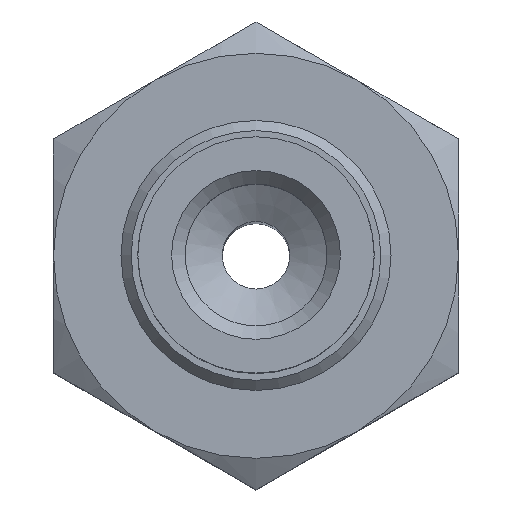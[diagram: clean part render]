
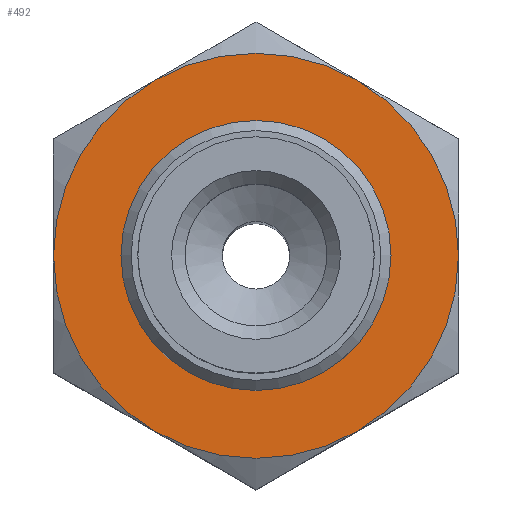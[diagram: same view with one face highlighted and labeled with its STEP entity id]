
A CAD part, top view. The second image highlights one B-rep face of the part: STEP entity #492.
In plain terms, the highlighted planar face has unit normal (0, 0, 1).
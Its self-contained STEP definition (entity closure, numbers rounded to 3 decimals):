
#492=ADVANCED_FACE('',(#688,#689),#690,.T.);
#688=FACE_BOUND('',#985,.T.);
#689=FACE_OUTER_BOUND('',#986,.T.);
#690=PLANE('',#987);
#985=EDGE_LOOP('',(#1443));
#986=EDGE_LOOP('',(#1444,#1445,#1446,#1447,#1448,#1449));
#987=AXIS2_PLACEMENT_3D('',#1450,#1451,#1452);
#1443=ORIENTED_EDGE('',*,*,#1931,.T.);
#1444=ORIENTED_EDGE('',*,*,#1932,.T.);
#1445=ORIENTED_EDGE('',*,*,#1933,.T.);
#1446=ORIENTED_EDGE('',*,*,#1897,.T.);
#1447=ORIENTED_EDGE('',*,*,#1919,.T.);
#1448=ORIENTED_EDGE('',*,*,#1934,.T.);
#1449=ORIENTED_EDGE('',*,*,#1929,.T.);
#1450=CARTESIAN_POINT('',(-6.928,-6.0,3.0));
#1451=DIRECTION('',(0.0,0.0,1.0));
#1452=DIRECTION('',(1.0,0.0,0.0));
#1897=EDGE_CURVE('',#2118,#2109,#2119,.T.);
#1919=EDGE_CURVE('',#2109,#2155,#2157,.T.);
#1929=EDGE_CURVE('',#2133,#2124,#2170,.T.);
#1931=EDGE_CURVE('',#2172,#2172,#2173,.T.);
#1932=EDGE_CURVE('',#2124,#2151,#2174,.T.);
#1933=EDGE_CURVE('',#2151,#2118,#2175,.T.);
#1934=EDGE_CURVE('',#2155,#2133,#2176,.T.);
#2109=VERTEX_POINT('',#2428);
#2118=VERTEX_POINT('',#2450);
#2119=CIRCLE('',#2451,6.0);
#2124=VERTEX_POINT('',#2461);
#2133=VERTEX_POINT('',#2483);
#2151=VERTEX_POINT('',#2527);
#2155=VERTEX_POINT('',#2539);
#2157=CIRCLE('',#2545,6.0);
#2170=CIRCLE('',#2574,6.0);
#2172=VERTEX_POINT('',#2576);
#2173=CIRCLE('',#2577,3.925);
#2174=CIRCLE('',#2578,6.0);
#2175=CIRCLE('',#2579,6.0);
#2176=CIRCLE('',#2580,6.0);
#2428=CARTESIAN_POINT('',(-5.196,3.0,3.0));
#2450=CARTESIAN_POINT('',(0.,6.0,3.0));
#2451=AXIS2_PLACEMENT_3D('',#2955,#2956,#2957);
#2461=CARTESIAN_POINT('',(5.196,-3.0,3.0));
#2483=CARTESIAN_POINT('',(0.,-6.0,3.0));
#2527=CARTESIAN_POINT('',(5.196,3.0,3.0));
#2539=CARTESIAN_POINT('',(-5.196,-3.0,3.0));
#2545=AXIS2_PLACEMENT_3D('',#2968,#2969,#2970);
#2574=AXIS2_PLACEMENT_3D('',#2983,#2984,#2985);
#2576=CARTESIAN_POINT('',(3.925,0.0,3.0));
#2577=AXIS2_PLACEMENT_3D('',#2989,#2990,#2991);
#2578=AXIS2_PLACEMENT_3D('',#2992,#2993,#2994);
#2579=AXIS2_PLACEMENT_3D('',#2995,#2996,#2997);
#2580=AXIS2_PLACEMENT_3D('',#2998,#2999,#3000);
#2955=CARTESIAN_POINT('',(0.,0.0,3.0));
#2956=DIRECTION('',(0.0,0.,1.0));
#2957=DIRECTION('',(0.0,-1.0,0.));
#2968=CARTESIAN_POINT('',(0.,0.0,3.0));
#2969=DIRECTION('',(0.0,0.,1.0));
#2970=DIRECTION('',(0.0,-1.0,0.));
#2983=CARTESIAN_POINT('',(0.,0.0,3.0));
#2984=DIRECTION('',(0.0,0.,1.0));
#2985=DIRECTION('',(0.0,-1.0,0.));
#2989=CARTESIAN_POINT('',(0.0,0.0,3.0));
#2990=DIRECTION('',(0.0,0.0,-1.0));
#2991=DIRECTION('',(1.0,0.0,0.0));
#2992=CARTESIAN_POINT('',(0.,0.0,3.0));
#2993=DIRECTION('',(0.0,0.,1.0));
#2994=DIRECTION('',(0.0,-1.0,0.));
#2995=CARTESIAN_POINT('',(0.,0.0,3.0));
#2996=DIRECTION('',(0.0,0.,1.0));
#2997=DIRECTION('',(0.0,-1.0,0.));
#2998=CARTESIAN_POINT('',(0.,0.0,3.0));
#2999=DIRECTION('',(0.0,0.,1.0));
#3000=DIRECTION('',(0.0,-1.0,0.));
